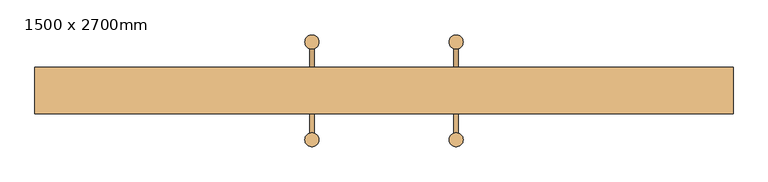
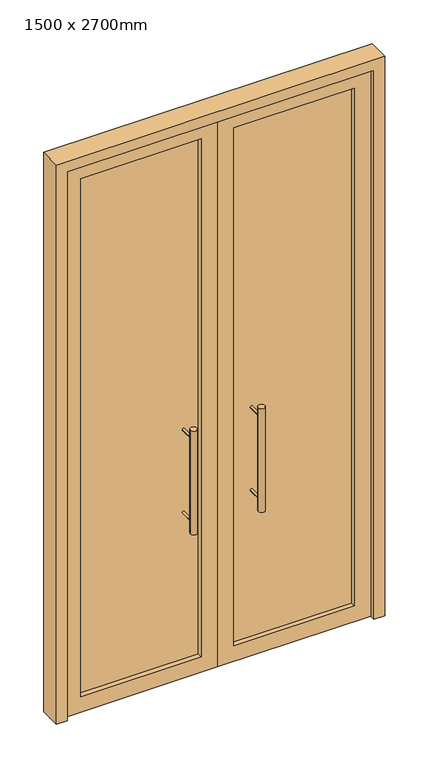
"""IFC4 building model written with IfcOpenShell, lengths in millimetres: door geometry, 双面嵌板玻璃门 : 1500 x 2700mm."""

from ifc_helpers import new_model, si_unit, point, frame, frame_2d, origin, place, context, project, spatial, polyline, circle_curve, trimmed, segment, composite_curve, outline, extrude, source, transform, mapped, element, save


def door_1500_x_2700mm_e6651a72(model_context):
    return source(origin(), model_context, "Body", "SweptSolid", [
        extrude(outline(composite_curve([segment(trimmed(circle_curve(frame_2d((155.0, 105.0)), 15.0), [point((140.0, 105.0))], [point((170.0, 105.0))], False, "CARTESIAN"), True, "CONTINUOUS"), segment(trimmed(circle_curve(frame_2d((155.0, 105.0)), 15.0), [point((170.0, 105.0))], [point((140.0, 105.0))], False, "CARTESIAN"), True, "CONTINUOUS")], self_intersect=False)), frame((0.0, 0.0, 750.0), z_axis=(0.0, 0.0, 1.0), x_axis=(1.0, 0.0, 0.0)), (0.0, 0.0, 1.0), 500.0),
        extrude(outline(composite_curve([segment(trimmed(circle_curve(frame_2d((1200.0, 155.0)), 5.0), [point((1200.0, 150.0))], [point((1200.0, 160.0))], False, "CARTESIAN"), True, "CONTINUOUS"), segment(trimmed(circle_curve(frame_2d((1200.0, 155.0)), 5.0), [point((1200.0, 160.0))], [point((1200.0, 150.0))], False, "CARTESIAN"), True, "CONTINUOUS")], self_intersect=False)), frame((0.0, 25.0, 0.0), z_axis=(0.0, 1.0, 0.0), x_axis=(0.0, 0.0, 1.0)), (0.0, 0.0, 1.0), 80.0),
        extrude(outline(composite_curve([segment(trimmed(circle_curve(frame_2d((800.0, 155.0)), 5.0), [point((800.0, 150.0))], [point((800.0, 160.0))], False, "CARTESIAN"), True, "CONTINUOUS"), segment(trimmed(circle_curve(frame_2d((800.0, 155.0)), 5.0), [point((800.0, 160.0))], [point((800.0, 150.0))], False, "CARTESIAN"), True, "CONTINUOUS")], self_intersect=False)), frame((0.0, 25.0, 0.0), z_axis=(0.0, 1.0, 0.0), x_axis=(0.0, 0.0, 1.0)), (0.0, 0.0, 1.0), 80.0),
        extrude(outline(composite_curve([segment(trimmed(circle_curve(frame_2d((1200.0, 155.0)), 5.0), [point((1200.0, 150.0))], [point((1200.0, 160.0))], False, "CARTESIAN"), True, "CONTINUOUS"), segment(trimmed(circle_curve(frame_2d((1200.0, 155.0)), 5.0), [point((1200.0, 160.0))], [point((1200.0, 150.0))], False, "CARTESIAN"), True, "CONTINUOUS")], self_intersect=False)), frame((0.0, -105.0, 0.0), z_axis=(0.0, 1.0, 0.0), x_axis=(0.0, 0.0, 1.0)), (0.0, 0.0, 1.0), 80.0),
        extrude(outline(composite_curve([segment(trimmed(circle_curve(frame_2d((800.0, 155.0)), 5.0), [point((800.0, 150.0))], [point((800.0, 160.0))], False, "CARTESIAN"), True, "CONTINUOUS"), segment(trimmed(circle_curve(frame_2d((800.0, 155.0)), 5.0), [point((800.0, 160.0))], [point((800.0, 150.0))], False, "CARTESIAN"), True, "CONTINUOUS")], self_intersect=False)), frame((0.0, -105.0, 0.0), z_axis=(0.0, 1.0, 0.0), x_axis=(0.0, 0.0, 1.0)), (0.0, 0.0, 1.0), 80.0),
        extrude(outline(composite_curve([segment(trimmed(circle_curve(frame_2d((155.0, -105.0)), 15.0), [point((140.0, -105.0))], [point((170.0, -105.0))], False, "CARTESIAN"), True, "CONTINUOUS"), segment(trimmed(circle_curve(frame_2d((155.0, -105.0)), 15.0), [point((170.0, -105.0))], [point((140.0, -105.0))], False, "CARTESIAN"), True, "CONTINUOUS")], self_intersect=False)), frame((0.0, 0.0, 750.0), z_axis=(0.0, 0.0, 1.0), x_axis=(1.0, 0.0, 0.0)), (0.0, 0.0, 1.0), 500.0),
        extrude(outline(composite_curve([segment(trimmed(circle_curve(frame_2d((-155.0, 105.0)), 15.0), [point((-170.0, 105.0))], [point((-140.0, 105.0))], False, "CARTESIAN"), True, "CONTINUOUS"), segment(trimmed(circle_curve(frame_2d((-155.0, 105.0)), 15.0), [point((-140.0, 105.0))], [point((-170.0, 105.0))], False, "CARTESIAN"), True, "CONTINUOUS")], self_intersect=False)), frame((0.0, 0.0, 750.0), z_axis=(0.0, 0.0, 1.0), x_axis=(1.0, 0.0, 0.0)), (0.0, 0.0, 1.0), 500.0),
        extrude(outline(composite_curve([segment(trimmed(circle_curve(frame_2d((1200.0, -155.0)), 5.0), [point((1200.0, -160.0))], [point((1200.0, -150.0))], False, "CARTESIAN"), True, "CONTINUOUS"), segment(trimmed(circle_curve(frame_2d((1200.0, -155.0)), 5.0), [point((1200.0, -150.0))], [point((1200.0, -160.0))], False, "CARTESIAN"), True, "CONTINUOUS")], self_intersect=False)), frame((0.0, 25.0, 0.0), z_axis=(0.0, 1.0, 0.0), x_axis=(0.0, 0.0, 1.0)), (0.0, 0.0, 1.0), 80.0),
        extrude(outline(composite_curve([segment(trimmed(circle_curve(frame_2d((800.0, -155.0)), 5.0), [point((800.0, -160.0))], [point((800.0, -150.0))], False, "CARTESIAN"), True, "CONTINUOUS"), segment(trimmed(circle_curve(frame_2d((800.0, -155.0)), 5.0), [point((800.0, -150.0))], [point((800.0, -160.0))], False, "CARTESIAN"), True, "CONTINUOUS")], self_intersect=False)), frame((0.0, 25.0, 0.0), z_axis=(0.0, 1.0, 0.0), x_axis=(0.0, 0.0, 1.0)), (0.0, 0.0, 1.0), 80.0),
        extrude(outline(composite_curve([segment(trimmed(circle_curve(frame_2d((1200.0, -155.0)), 5.0), [point((1200.0, -160.0))], [point((1200.0, -150.0))], False, "CARTESIAN"), True, "CONTINUOUS"), segment(trimmed(circle_curve(frame_2d((1200.0, -155.0)), 5.0), [point((1200.0, -150.0))], [point((1200.0, -160.0))], False, "CARTESIAN"), True, "CONTINUOUS")], self_intersect=False)), frame((0.0, -105.0, 0.0), z_axis=(0.0, 1.0, 0.0), x_axis=(0.0, 0.0, 1.0)), (0.0, 0.0, 1.0), 80.0),
        extrude(outline(composite_curve([segment(trimmed(circle_curve(frame_2d((800.0, -155.0)), 5.0), [point((800.0, -160.0))], [point((800.0, -150.0))], False, "CARTESIAN"), True, "CONTINUOUS"), segment(trimmed(circle_curve(frame_2d((800.0, -155.0)), 5.0), [point((800.0, -150.0))], [point((800.0, -160.0))], False, "CARTESIAN"), True, "CONTINUOUS")], self_intersect=False)), frame((0.0, -105.0, 0.0), z_axis=(0.0, 1.0, 0.0), x_axis=(0.0, 0.0, 1.0)), (0.0, 0.0, 1.0), 80.0),
        extrude(outline(composite_curve([segment(trimmed(circle_curve(frame_2d((-155.0, -105.0)), 15.0), [point((-170.0, -105.0))], [point((-140.0, -105.0))], False, "CARTESIAN"), True, "CONTINUOUS"), segment(trimmed(circle_curve(frame_2d((-155.0, -105.0)), 15.0), [point((-140.0, -105.0))], [point((-170.0, -105.0))], False, "CARTESIAN"), True, "CONTINUOUS")], self_intersect=False)), frame((0.0, 0.0, 750.0), z_axis=(0.0, 0.0, 1.0), x_axis=(1.0, 0.0, 0.0)), (0.0, 0.0, 1.0), 500.0),
        extrude(outline(polyline([(75.0, 2.0), (625.0, 2.0), (625.0, -2.0), (75.0, -2.0), (75.0, 2.0)])), frame((0.0, 0.0, 75.0), z_axis=(0.0, 0.0, 1.0), x_axis=(1.0, 0.0, 0.0)), (0.0, 0.0, 1.0), 2500.0),
        extrude(outline(polyline([(-625.0, 2.0), (-75.0, 2.0), (-75.0, -2.0), (-625.0, -2.0), (-625.0, 2.0)])), frame((0.0, 0.0, 75.0), z_axis=(0.0, 0.0, 1.0), x_axis=(1.0, 0.0, 0.0)), (0.0, 0.0, 1.0), 2500.0),
        extrude(outline(polyline([(2650.0, 0.0), (2650.0, -700.0), (0.0, -700.0), (0.0, 0.0), (2650.0, 0.0)]), holes=[polyline([(2575.0, -625.0), (2575.0, -75.0), (75.0, -75.0), (75.0, -625.0), (2575.0, -625.0)])]), frame((0.0, -25.0, 0.0), z_axis=(0.0, 1.0, 0.0), x_axis=(0.0, 0.0, 1.0)), (0.0, 0.0, 1.0), 50.0),
        extrude(outline(polyline([(2650.0, 0.0), (0.0, 0.0), (0.0, 700.0), (2650.0, 700.0), (2650.0, 0.0)]), holes=[polyline([(2575.0, 625.0), (75.0, 625.0), (75.0, 75.0), (2575.0, 75.0), (2575.0, 625.0)])]), frame((0.0, -25.0, 0.0), z_axis=(0.0, 1.0, 0.0), x_axis=(0.0, 0.0, 1.0)), (0.0, 0.0, 1.0), 50.0),
        extrude(outline(polyline([(2700.0, 750.0), (2700.0, -750.0), (0.0, -750.0), (0.0, -700.0), (2650.0, -700.0), (2650.0, 700.0), (0.0, 700.0), (0.0, 750.0), (2700.0, 750.0)])), frame((0.0, -50.0, 0.0), z_axis=(0.0, 1.0, 0.0), x_axis=(0.0, 0.0, 1.0)), (0.0, 0.0, 1.0), 100.0),
    ])


if __name__ == "__main__":
    model = new_model("IFC4")
    model_context = context("Model", 3, world=origin())
    ifc_project = project(units=[si_unit("LENGTHUNIT", "METRE", prefix="MILLI")], contexts=[model_context])
    site = spatial("IfcSite", under=ifc_project)
    building = spatial("IfcBuilding", under=site)
    placement = place(None, origin())
    door_1500_x_2700mm_shape = door_1500_x_2700mm_e6651a72(model_context)
    element("IfcDoor", 1, ObjectType="双面嵌板玻璃门 : 1500 x 2700mm", at=placement, inside=building, context=model_context, shape_type="MappedRepresentation", body=[
        mapped(door_1500_x_2700mm_shape, transform((0.0, 0.0, 0.0), x_axis=(1.0, 0.0, 0.0), y_axis=(0.0, 1.0, 0.0), z_axis=(0.0, 0.0, 1.0))),
    ])
    save(model, "model.ifc")
